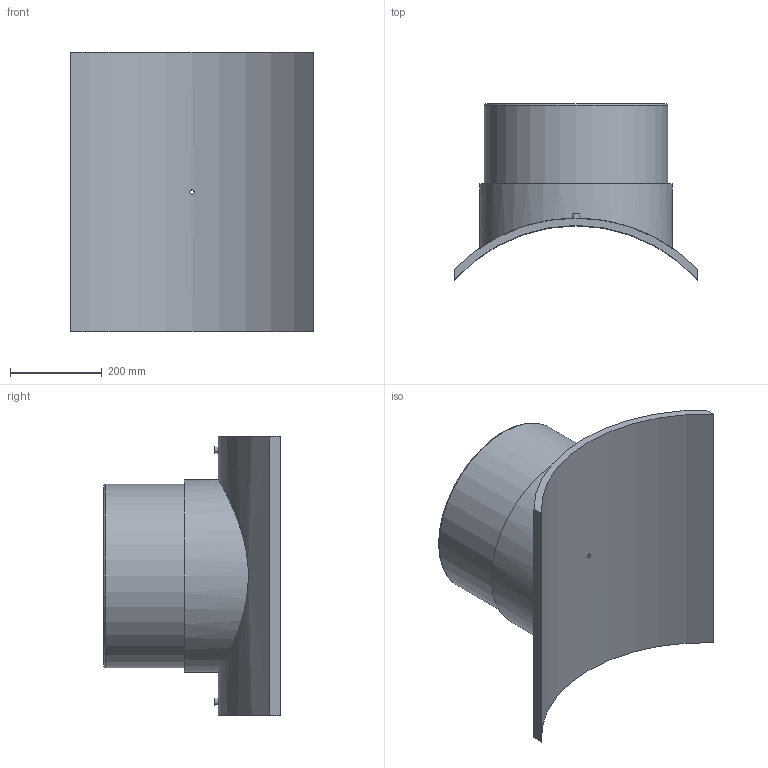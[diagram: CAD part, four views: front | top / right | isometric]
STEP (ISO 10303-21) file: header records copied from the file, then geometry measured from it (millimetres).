
FILE_DESCRIPTION(/* description */ ('PLASSON BRANCH SADDLE 710x400'),/* implementation_level */ '2;1');
FILE_NAME(/* name */ 'C:\Dropbox\KIMPROJECTS-Inventor 2019\99-16-3568-Processing\ElectroFusion Fittings\495803\stp\495803710400T.stp',/* time_stamp */ '2024-04-04T11:56:54+02:00',/* author */ ('KIM'),/* organization */ (''),/* preprocessor_version */ 'ST-DEVELOPER v17.2',/* originating_system */ 'Autodesk Inventor 2019',/* authorisation */ '');
FILE_SCHEMA (('AUTOMOTIVE_DESIGN { 1 0 10303 214 3 1 1 }'));
Length unit declared in the file: millimetre
Products named in the file (1): 495803710400T
Bounding box: 530 x 384.78 x 610 mm (x, y, z)
Volume: 19525247.9 mm3; surface area: 1407431.3 mm2
Topology: 1 solids, 1 shells, 29 faces, 60 edges, 43 vertices
Faces by surface type: plane 13, cylinder 12, torus 2, cone 2
Full cylindrical faces by diameter (mm): 4 x2, 9.6 x1, 10 x2, 16 x1, 320 x1, 400 x1, 420 x1
Entity records: 1118 total; most frequent: CARTESIAN_POINT 432, DIRECTION 139, ORIENTED_EDGE 120, EDGE_CURVE 60, AXIS2_PLACEMENT_3D 60, VERTEX_POINT 43, EDGE_LOOP 41, CIRCLE 30
